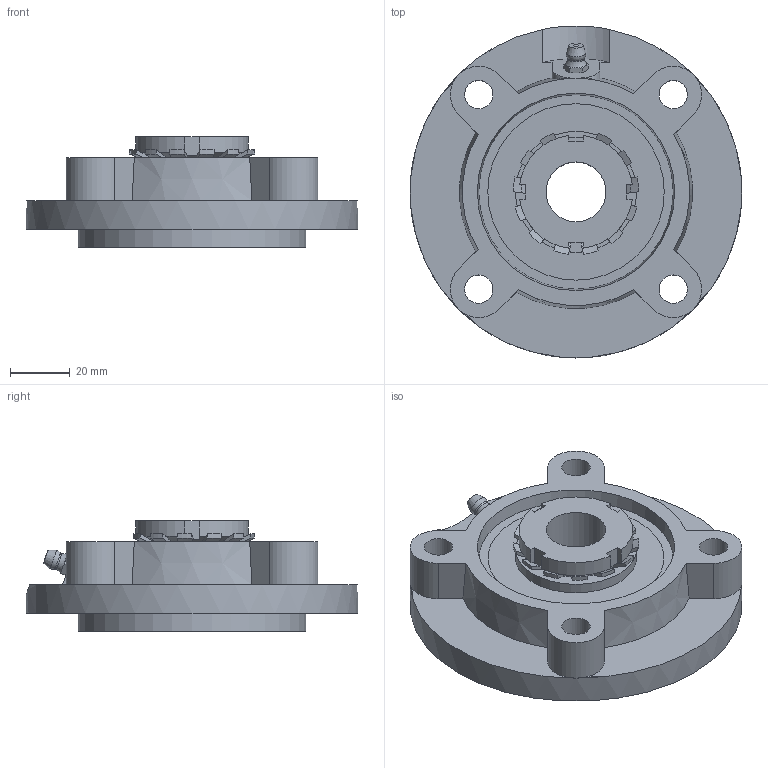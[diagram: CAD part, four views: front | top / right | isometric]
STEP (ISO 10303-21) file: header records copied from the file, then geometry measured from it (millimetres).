
FILE_DESCRIPTION((''),'2;1');
FILE_NAME('\\Ts-tgl068\j-cad-d-base\00.3DCADデータ作成フォルダ\02.フランジ形\UKFCX\UKFCX05+H.stp','2014-12-10T08:24:24',('btec_1106_2'),(''),'Autodesk Inventor 2012','Autodesk Inventor 2012','');
FILE_SCHEMA(('AUTOMOTIVE_DESIGN { 1 0 10303 214 1 1 1 1 }'));
Length unit declared in the file: millimetre
Products named in the file (4): UKFCX00+H; FCX05; UKX05+H; GU1
Assembly tree (3 placements, depth 2):
  UKFCX00+H
    FCX05
    UKX05+H
    GU1
Bounding box: 111 x 111 x 37 mm (x, y, z)
Volume: 165785 mm3; surface area: 45948.4 mm2
Topology: 3 solids, 3 shells, 184 faces, 484 edges, 314 vertices
Faces by surface type: plane 77, cone 54, cylinder 47, sphere 4, torus 2
Full cylindrical faces by diameter (mm): 5.359 x1, 6.35 x1, 9.5 x4, 20 x1, 40.5 x2, 76 x1, 111 x1
Entity records: 5637 total; most frequent: CARTESIAN_POINT 1296, ORIENTED_EDGE 914, DIRECTION 864, EDGE_CURVE 457, AXIS2_PLACEMENT_3D 354, VERTEX_POINT 308, EDGE_LOOP 227, FACE_OUTER_BOUND 184
